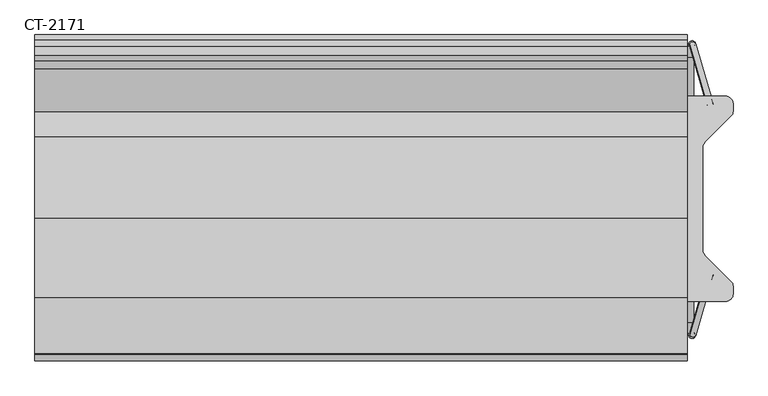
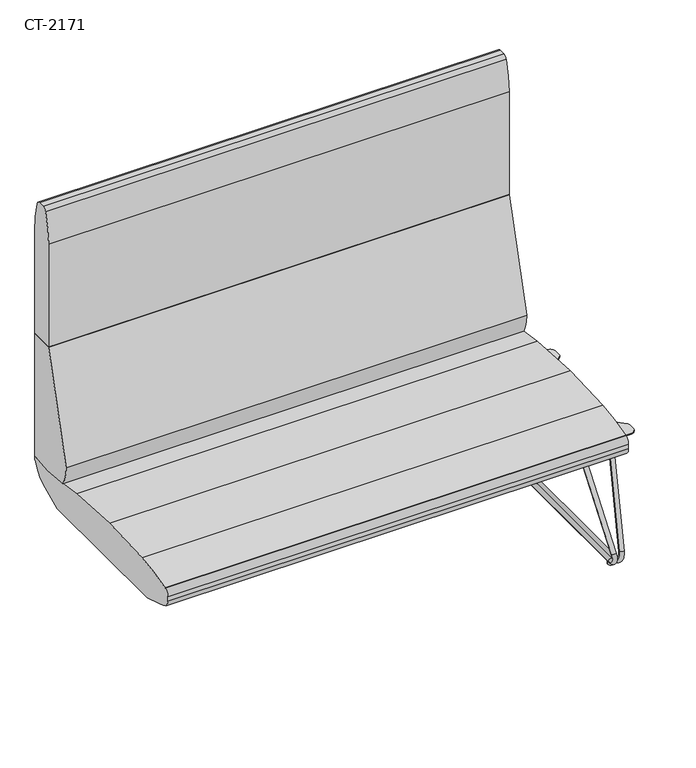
"""IFC4 building model written with IfcOpenShell, lengths in millimetres: furniture geometry, Davis_Furniture-Cantina-High_Back_Straight : CT-2171."""

from ifc_helpers import new_model, si_unit, point, frame, frame_2d, origin, origin_with_axes, place, context, project, spatial, polyline, circle_curve, ellipse_curve, trimmed, segment, composite_curve, outline, extrude, source, transform, mapped, element, save
from ifc_brep_helpers import plane_surface, cylinder_surface, revolved_surface, advanced_brep


def ct_2171_a54bb54a(model_context):
    return source(origin(), model_context, "Body", "SolidModel", [
        extrude(outline(composite_curve([segment(trimmed(circle_curve(frame_2d((709.0306813, 183.2173202)), 14.9820313), [point((709.0306813, 198.1993514))], [point((724.0127126, 183.2173202))], False, "CARTESIAN"), True, "CONTINUOUS"), segment(polyline([(724.0127126, 183.2173202), (724.0127126, 168.7877705)]), True, "CONTINUOUS"), segment(trimmed(circle_curve(frame_2d((710.0063569, 168.7877705)), 14.0063557), [point((724.0127126, 168.7877705))], [point((719.910346, 158.8837814))], False, "CARTESIAN"), True, "CONTINUOUS"), segment(polyline([(719.910346, 158.8837814), (669.3136664, 108.2871019)]), True, "CONTINUOUS"), segment(trimmed(circle_curve(frame_2d((679.6970876, 97.9036807)), 14.684375), [point((669.3136664, 108.2871019))], [point((665.0127126, 97.9036807))], True, "CARTESIAN"), True, "CONTINUOUS"), segment(polyline([(665.0127126, 97.9036807), (665.0127126, -101.5049781)]), True, "CONTINUOUS"), segment(trimmed(circle_curve(frame_2d((679.6970876, -101.5049781)), 14.684375), [point((665.0127126, -101.5049781))], [point((669.3136664, -111.8883992))], True, "CARTESIAN"), True, "CONTINUOUS"), segment(polyline([(669.3136664, -111.8883992), (719.910346, -162.4850787)]), True, "CONTINUOUS"), segment(trimmed(circle_curve(frame_2d((710.0063569, -172.3890678)), 14.0063557), [point((719.910346, -162.4850787))], [point((724.0127126, -172.3890678))], False, "CARTESIAN"), True, "CONTINUOUS"), segment(polyline([(724.0127126, -172.3890678), (724.0127126, -186.8186175)]), True, "CONTINUOUS"), segment(trimmed(circle_curve(frame_2d((709.0306813, -186.8186175)), 14.9820312), [point((724.0127126, -186.8186175))], [point((709.0306813, -201.8006488))], False, "CARTESIAN"), True, "CONTINUOUS"), segment(polyline([(709.0306813, -201.8006488), (560.9693187, -201.8006488)]), True, "CONTINUOUS"), segment(trimmed(circle_curve(frame_2d((560.9693187, -186.8440427)), 14.956606), [point((560.9693187, -201.8006488))], [point((546.0127127, -186.8440427))], False, "CARTESIAN"), True, "CONTINUOUS"), segment(polyline([(546.0127127, -186.8440427), (546.0127127, -172.3822284)]), True, "CONTINUOUS"), segment(trimmed(circle_curve(frame_2d((560.0025564, -172.3822284)), 13.9898438), [point((546.0127127, -172.3822284))], [point((550.110243, -162.489915))], False, "CARTESIAN"), True, "CONTINUOUS"), segment(polyline([(550.110243, -162.489915), (600.7117588, -111.8883992)]), True, "CONTINUOUS"), segment(trimmed(circle_curve(frame_2d((590.3283377, -101.5049781)), 14.684375), [point((600.7117588, -111.8883992))], [point((605.0127127, -101.5049781))], True, "CARTESIAN"), True, "CONTINUOUS"), segment(polyline([(605.0127127, -101.5049781), (605.0127127, 97.918921)]), True, "CONTINUOUS"), segment(trimmed(circle_curve(frame_2d((590.3651309, 97.918921)), 14.6475818), [point((605.0127127, 97.918921))], [point((600.7225353, 108.2763254))], True, "CARTESIAN"), True, "CONTINUOUS"), segment(polyline([(600.7225353, 108.2763254), (550.110243, 158.8886177)]), True, "CONTINUOUS"), segment(trimmed(circle_curve(frame_2d((560.0025564, 168.780931)), 13.9898437), [point((550.110243, 158.8886177))], [point((546.0127127, 168.780931))], False, "CARTESIAN"), True, "CONTINUOUS"), segment(polyline([(546.0127127, 168.780931), (546.0127127, 183.2427454)]), True, "CONTINUOUS"), segment(trimmed(circle_curve(frame_2d((560.9693187, 183.2427454)), 14.956606), [point((546.0127127, 183.2427454))], [point((560.9693187, 198.1993514))], False, "CARTESIAN"), True, "CONTINUOUS"), segment(polyline([(560.9693187, 198.1993514), (709.0306813, 198.1993514)]), True, "CONTINUOUS")], self_intersect=False)), frame((0.0, 0.0, 330.7277844), z_axis=(0.0, 0.0, 1.0), x_axis=(1.0, 0.0, 0.0)), (0.0, 0.0, 1.0), 3.1724353),
        advanced_brep(
        [(639.3476455, 298.4299122, 51.3019909), (651.7863293, 297.001732, 49.1737411), (686.3568189, 178.5251074, 330.7277844), (673.6568189, 180.8488451, 330.7277844), (634.9955294, 274.6441492, 15.8568497), (647.6955294, 274.6441492, 15.8568497), (634.9955294, -242.6856853, 15.8568497), (647.6955294, -242.6856853, 15.8568497), (639.3476455, -266.4714483, 51.3019909), (651.7863293, -265.0432681, 49.1737411), (673.6568189, -148.8903812, 330.7277844), (686.3568189, -146.5666435, 330.7277844)],
        [
            (0, 1, circle_curve(frame((645.5669874, 297.7158221, 50.237866), z_axis=(0.112455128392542, -0.3853952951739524, 0.9158735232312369), x_axis=(-0.9794239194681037, 0.11245512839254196, 0.16757872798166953)), 6.35)),
            (1, 2),
            (2, 3, ellipse_curve(frame((680.0068189, 179.6869762, 330.7277844), z_axis=(0.0, 0.0, -1.0), x_axis=(0.28011057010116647, -0.9599677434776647, 0.0)), 6.9332717, 6.35)),
            (3, 0),
            (1, 0, circle_curve(frame((645.5669874, 297.7158221, 50.237866), z_axis=(0.112455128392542, -0.3853952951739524, 0.9158735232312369), x_axis=(-0.9794239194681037, 0.11245512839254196, 0.16757872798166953)), 6.35)),
            (3, 2, ellipse_curve(frame((680.0068189, 179.6869762, 330.7277844), z_axis=(0.0, 0.0, -1.0), x_axis=(0.28011057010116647, -0.9599677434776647, 0.0)), 6.9332717, 6.35)),
            (0, 4, circle_curve(frame((638.1369549, 274.6441492, 41.4417072), z_axis=(-0.9925461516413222, 0.0, 0.12186934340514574), x_axis=(0.046967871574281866, 0.9227515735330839, 0.38252261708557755)), 25.7769953)),
            (4, 5, circle_curve(frame((641.3455294, 274.6441492, 15.8568497), z_axis=(0.0, 1.0, 0.0), x_axis=(-1.0, 0.0, 0.0)), 6.35)),
            (5, 1, circle_curve(frame((650.6483328, 274.6441492, 39.9055032), z_axis=(0.9925461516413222, 0.0, -0.12186934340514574), x_axis=(0.046967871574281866, 0.9227515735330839, 0.38252261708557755)), 24.2292547)),
            (5, 4, circle_curve(frame((641.3455294, 274.6441492, 15.8568497), z_axis=(0.0, 0.9999999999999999, 0.0), x_axis=(-1.0, 0.0, 0.0)), 6.35)),
            (4, 6),
            (6, 7, circle_curve(frame((641.3455294, -242.6856853, 15.8568497), z_axis=(0.0, 1.0, 0.0), x_axis=(-1.0, 0.0, 0.0)), 6.35)),
            (7, 5),
            (7, 6, circle_curve(frame((641.3455294, -242.6856853, 15.8568497), z_axis=(0.0, 1.0, 0.0), x_axis=(-1.0, 0.0, 0.0)), 6.35)),
            (6, 8, circle_curve(frame((638.1369549, -242.6856853, 41.4417072), z_axis=(-0.9925461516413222, 0.0, 0.12186934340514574), x_axis=(-0.12186934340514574, 0.0, -0.9925461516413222)), 25.7769953)),
            (8, 9, circle_curve(frame((645.5669874, -265.7573582, 50.237866), z_axis=(-0.11245512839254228, -0.3853952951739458, -0.9158735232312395), x_axis=(-0.9794239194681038, -0.1124551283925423, 0.16757872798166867)), 6.35)),
            (9, 7, circle_curve(frame((650.6483328, -242.6856853, 39.9055032), z_axis=(0.9925461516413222, 0.0, -0.12186934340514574), x_axis=(-0.12186934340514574, 0.0, -0.9925461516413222)), 24.2292547)),
            (9, 8, circle_curve(frame((645.5669874, -265.7573582, 50.237866), z_axis=(-0.11245512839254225, -0.3853952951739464, -0.9158735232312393), x_axis=(-0.9794239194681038, -0.11245512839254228, 0.16757872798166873)), 6.35)),
            (8, 10),
            (10, 11, ellipse_curve(frame((680.0068189, -147.7285123, 330.7277844), z_axis=(0.0, 0.0, -1.0), x_axis=(-0.28011057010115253, -0.9599677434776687, 0.0)), 6.9332717, 6.35)),
            (11, 9),
            (11, 10, ellipse_curve(frame((680.0068189, -147.7285123, 330.7277844), z_axis=(0.0, 0.0, -1.0), x_axis=(-0.28011057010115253, -0.9599677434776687, 0.0)), 6.9332717, 6.35)),
        ],
        [
            cylinder_surface(frame((681.1405198, 175.8016664, 339.9610379), z_axis=(0.112455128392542, -0.3853952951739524, 0.9158735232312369), x_axis=(-0.9794239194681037, 0.11245512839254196, 0.16757872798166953)), 6.35),
            revolved_surface(trimmed(ellipse_curve(frame((645.5669874, 297.7158221, 50.237866), z_axis=(0.11245512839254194, -0.38539529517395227, 0.9158735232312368), x_axis=(-0.9794239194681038, 0.112455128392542, 0.1675787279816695)), 6.35, 6.35), [point((639.3476455, 298.4299122, 51.3019909))], [point((651.7863293, 297.001732, 49.1737411))], True, "CARTESIAN"), (697.3582375, 274.6441492, 34.170248), (-0.9925461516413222, 0.0, 0.12186934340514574)),
            revolved_surface(trimmed(ellipse_curve(frame((645.5669874, 297.7158221, 50.237866), z_axis=(0.11245512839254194, -0.38539529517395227, 0.9158735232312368), x_axis=(-0.9794239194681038, 0.112455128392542, 0.1675787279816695)), 6.35, 6.35), [point((651.7863293, 297.001732, 49.1737411))], [point((639.3476455, 298.4299122, 51.3019909))], True, "CARTESIAN"), (697.3582375, 274.6441492, 34.170248), (-0.9925461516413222, 0.0, 0.12186934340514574)),
            cylinder_surface(frame((641.3455294, 274.6441492, 15.8568497), z_axis=(0.0, 1.0, 0.0), x_axis=(-1.0, 0.0, 0.0)), 6.35),
            revolved_surface(trimmed(ellipse_curve(frame((641.3455294, -242.6856853, 15.8568497), z_axis=(0.0, 1.0, 0.0), x_axis=(-1.0, 0.0, 0.0)), 6.35, 6.35), [point((634.9955294, -242.6856853, 15.8568497))], [point((647.6955294, -242.6856853, 15.8568497))], True, "CARTESIAN"), (697.3582375, -242.6856853, 34.170248), (-0.9925461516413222, 0.0, 0.12186934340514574)),
            revolved_surface(trimmed(ellipse_curve(frame((641.3455294, -242.6856853, 15.8568497), z_axis=(0.0, 1.0, 0.0), x_axis=(-1.0, 0.0, 0.0)), 6.35, 6.35), [point((647.6955294, -242.6856853, 15.8568497))], [point((634.9955294, -242.6856853, 15.8568497))], True, "CARTESIAN"), (697.3582375, -242.6856853, 34.170248), (-0.9925461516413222, 0.0, 0.12186934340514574)),
            cylinder_surface(frame((645.5669874, -265.7573582, 50.237866), z_axis=(-0.11245512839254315, -0.38539529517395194, -0.9158735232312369), x_axis=(-0.9794239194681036, -0.11245512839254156, 0.1675787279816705)), 6.35),
            plane_surface(frame((574.675, -168.170768, 330.7277844), z_axis=(0.0, 0.0, 1.0), x_axis=(0.0, 1.0, 0.0))),
        ],
        [
            (0, [[1, 2, 3, 4]]),
            (0, [[5, -4, 6, -2]]),
            (1, [[-1, 7, 8, 9]]),
            (2, [[-5, -9, 10, -7]]),
            (3, [[-8, 11, 12, 13]]),
            (3, [[-10, -13, 14, -11]]),
            (4, [[-12, 15, 16, 17]]),
            (5, [[-14, -17, 18, -15]]),
            (6, [[-16, 19, 20, 21]]),
            (6, [[-18, -21, 22, -19]]),
            (7, [[-3, -6]]),
            (7, [[-20, -22]]),
        ],
    ),
        advanced_brep(
        [(618.2136707, 297.001732, 49.1737411), (630.6523545, 298.4299122, 51.3019909), (596.3431811, 180.8488451, 330.7277844), (583.6431811, 178.5251074, 330.7277844), (622.3044706, 274.6441492, 15.8568497), (635.0044706, 274.6441492, 15.8568497), (622.3044706, -242.6856853, 15.8568497), (635.0044706, -242.6856853, 15.8568497), (618.2136707, -265.0432681, 49.1737411), (630.6523545, -266.4714483, 51.3019909), (583.6431811, -146.5666435, 330.7277844), (596.3431811, -148.8903812, 330.7277844)],
        [
            (0, 1, circle_curve(frame((624.4330126, 297.7158221, 50.237866), z_axis=(-0.11245512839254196, -0.38539529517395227, 0.915873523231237), x_axis=(0.9794239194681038, 0.11245512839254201, 0.1675787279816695)), 6.35)),
            (1, 2),
            (2, 3, ellipse_curve(frame((589.9931811, 179.6869762, 330.7277844), z_axis=(0.0, 0.0, -1.0), x_axis=(-0.28011057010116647, -0.9599677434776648, 0.0)), 6.9332717, 6.35)),
            (3, 0),
            (1, 0, circle_curve(frame((624.4330126, 297.7158221, 50.237866), z_axis=(-0.11245512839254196, -0.38539529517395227, 0.915873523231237), x_axis=(0.9794239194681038, 0.11245512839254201, 0.1675787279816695)), 6.35)),
            (3, 2, ellipse_curve(frame((589.9931811, 179.6869762, 330.7277844), z_axis=(0.0, 0.0, -1.0), x_axis=(-0.28011057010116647, -0.9599677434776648, 0.0)), 6.9332717, 6.35)),
            (0, 4, circle_curve(frame((619.3516672, 274.6441492, 39.9055032), z_axis=(-0.9925461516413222, 0.0, -0.12186934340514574), x_axis=(-0.046967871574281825, 0.9227515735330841, 0.38252261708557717)), 24.2292547)),
            (4, 5, circle_curve(frame((628.6544706, 274.6441492, 15.8568497), z_axis=(0.0, 1.0000000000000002, 0.0), x_axis=(1.0, 0.0, 0.0)), 6.35)),
            (5, 1, circle_curve(frame((631.8630451, 274.6441492, 41.4417072), z_axis=(0.9925461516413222, 0.0, 0.12186934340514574), x_axis=(-0.046967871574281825, 0.9227515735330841, 0.38252261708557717)), 25.7769953)),
            (5, 4, circle_curve(frame((628.6544706, 274.6441492, 15.8568497), z_axis=(0.0, 1.0000000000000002, 0.0), x_axis=(1.0, 0.0, 0.0)), 6.35)),
            (4, 6),
            (6, 7, circle_curve(frame((628.6544706, -242.6856853, 15.8568497), z_axis=(0.0, 1.0, 0.0), x_axis=(1.0, 0.0, 0.0)), 6.35)),
            (7, 5),
            (7, 6, circle_curve(frame((628.6544706, -242.6856853, 15.8568497), z_axis=(0.0, 1.0, 0.0), x_axis=(1.0, 0.0, 0.0)), 6.35)),
            (6, 8, circle_curve(frame((619.3516672, -242.6856853, 39.9055032), z_axis=(-0.9925461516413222, 0.0, -0.12186934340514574), x_axis=(0.12186934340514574, 0.0, -0.9925461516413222)), 24.2292547)),
            (8, 9, circle_curve(frame((624.4330126, -265.7573582, 50.237866), z_axis=(0.11245512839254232, -0.3853952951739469, -0.915873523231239), x_axis=(0.9794239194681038, -0.11245512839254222, 0.1675787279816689)), 6.35)),
            (9, 7, circle_curve(frame((631.8630451, -242.6856853, 41.4417072), z_axis=(0.9925461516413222, 0.0, 0.12186934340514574), x_axis=(0.12186934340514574, 0.0, -0.9925461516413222)), 25.7769953)),
            (9, 8, circle_curve(frame((624.4330126, -265.7573582, 50.237866), z_axis=(0.11245512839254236, -0.3853952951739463, -0.9158735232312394), x_axis=(0.9794239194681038, -0.11245512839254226, 0.1675787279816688)), 6.35)),
            (8, 10),
            (10, 11, ellipse_curve(frame((589.9931811, -147.7285123, 330.7277844), z_axis=(0.0, 0.0, -1.0), x_axis=(0.2801105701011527, -0.9599677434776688, 0.0)), 6.9332717, 6.35)),
            (11, 9),
            (11, 10, ellipse_curve(frame((589.9931811, -147.7285123, 330.7277844), z_axis=(0.0, 0.0, -1.0), x_axis=(0.2801105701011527, -0.9599677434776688, 0.0)), 6.9332717, 6.35)),
        ],
        [
            cylinder_surface(frame((588.8594802, 175.8016664, 339.9610379), z_axis=(-0.11245512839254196, -0.38539529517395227, 0.915873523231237), x_axis=(0.9794239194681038, 0.11245512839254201, 0.1675787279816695)), 6.35),
            revolved_surface(trimmed(ellipse_curve(frame((624.4330126, 297.7158221, 50.237866), z_axis=(-0.11245512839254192, -0.385395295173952, 0.9158735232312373), x_axis=(0.9794239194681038, 0.11245512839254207, 0.1675787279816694)), 6.35, 6.35), [point((618.2136707, 297.001732, 49.1737411))], [point((630.6523545, 298.4299122, 51.3019909))], True, "CARTESIAN"), (572.6417625, 274.6441492, 34.170248), (-0.9925461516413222, 0.0, -0.12186934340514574)),
            revolved_surface(trimmed(ellipse_curve(frame((624.4330126, 297.7158221, 50.237866), z_axis=(-0.11245512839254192, -0.385395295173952, 0.9158735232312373), x_axis=(0.9794239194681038, 0.11245512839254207, 0.1675787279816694)), 6.35, 6.35), [point((630.6523545, 298.4299122, 51.3019909))], [point((618.2136707, 297.001732, 49.1737411))], True, "CARTESIAN"), (572.6417625, 274.6441492, 34.170248), (-0.9925461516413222, 0.0, -0.12186934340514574)),
            cylinder_surface(frame((628.6544706, 274.6441492, 15.8568497), z_axis=(0.0, 1.0, 0.0), x_axis=(1.0, 0.0, 0.0)), 6.35),
            revolved_surface(trimmed(ellipse_curve(frame((628.6544706, -242.6856853, 15.8568497), z_axis=(0.0, 1.0, 0.0), x_axis=(1.0, 0.0, 0.0)), 6.35, 6.35), [point((622.3044706, -242.6856853, 15.8568497))], [point((635.0044706, -242.6856853, 15.8568497))], True, "CARTESIAN"), (572.6417625, -242.6856853, 34.170248), (-0.9925461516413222, 0.0, -0.12186934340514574)),
            revolved_surface(trimmed(ellipse_curve(frame((628.6544706, -242.6856853, 15.8568497), z_axis=(0.0, 1.0, 0.0), x_axis=(1.0, 0.0, 0.0)), 6.35, 6.35), [point((635.0044706, -242.6856853, 15.8568497))], [point((622.3044706, -242.6856853, 15.8568497))], True, "CARTESIAN"), (572.6417625, -242.6856853, 34.170248), (-0.9925461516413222, 0.0, -0.12186934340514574)),
            cylinder_surface(frame((624.4330126, -265.7573582, 50.237866), z_axis=(0.11245512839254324, -0.38539529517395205, -0.9158735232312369), x_axis=(0.9794239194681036, -0.11245512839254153, 0.16757872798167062)), 6.35),
            plane_surface(frame((574.675, -168.170768, 330.7277844), z_axis=(0.0, 0.0, 1.0), x_axis=(0.0, 1.0, 0.0))),
        ],
        [
            (0, [[1, 2, 3, 4]]),
            (0, [[5, -4, 6, -2]]),
            (1, [[-1, 7, 8, 9]]),
            (2, [[-5, -9, 10, -7]]),
            (3, [[-8, 11, 12, 13]]),
            (3, [[-10, -13, 14, -11]]),
            (4, [[-12, 15, 16, 17]]),
            (5, [[-14, -17, 18, -15]]),
            (6, [[-16, 19, 20, 21]]),
            (6, [[-18, -21, 22, -19]]),
            (7, [[-3, -6]]),
            (7, [[-20, -22]]),
        ],
    ),
        extrude(outline(composite_curve([segment(trimmed(circle_curve(frame_2d((635.0, -233.1061316)), 8.5328125), [point((626.4671875, -233.1061316))], [point((643.5328125, -233.1061316))], False, "CARTESIAN"), True, "CONTINUOUS"), segment(trimmed(circle_curve(frame_2d((635.0, -233.1061316)), 8.5328125), [point((643.5328125, -233.1061316))], [point((626.4671875, -233.1061316))], False, "CARTESIAN"), True, "CONTINUOUS")], self_intersect=False)), origin_with_axes(), (0.0, 0.0, 1.0), 9.5168817),
        extrude(outline(composite_curve([segment(trimmed(circle_curve(frame_2d((635.0, 265.0645955)), 8.5328125), [point((626.4671875, 265.0645955))], [point((643.5328125, 265.0645955))], False, "CARTESIAN"), True, "CONTINUOUS"), segment(trimmed(circle_curve(frame_2d((635.0, 265.0645955)), 8.5328125), [point((643.5328125, 265.0645955))], [point((626.4671875, 265.0645955))], False, "CARTESIAN"), True, "CONTINUOUS")], self_intersect=False)), origin_with_axes(), (0.0, 0.0, 1.0), 9.5168817),
        extrude(outline(composite_curve([segment(polyline([(251.8776889, 780.2222424), (317.5, 780.2222424), (317.5, 422.8417878)]), True, "CONTINUOUS"), segment(trimmed(circle_curve(frame_2d((252.6571889, 734.4725425)), 318.3053839), [point((317.5, 422.8417878))], [point((195.0170524, 421.4295229))], False, "CARTESIAN"), True, "CONTINUOUS"), segment(trimmed(circle_curve(frame_2d((-42.4075795, -868.0213401)), 1311.12699), [point((195.0170524, 421.4295229))], [point((183.4762494, 423.5012032))], True, "CARTESIAN"), True, "CONTINUOUS"), segment(trimmed(circle_curve(frame_2d((262.7994143, 474.997645)), 94.5729772), [point((183.4762494, 423.5012032))], [point((168.334097, 479.5089455))], False, "CARTESIAN"), True, "CONTINUOUS"), segment(polyline([(168.334097, 479.5089455), (251.8776889, 780.2222424)]), True, "CONTINUOUS")], self_intersect=False)), frame((-635.0, 0.0, 0.0), z_axis=(1.0, 0.0, 0.0), x_axis=(0.0, 1.0, 0.0)), (0.0, 0.0, 1.0), 1270.0),
        extrude(outline(composite_curve([segment(trimmed(circle_curve(frame_2d((294.3906222, 1161.9216653)), 12.7), [point((294.3906222, 1174.6216653))], [point((306.6930666, 1165.0744199))], False, "CARTESIAN"), True, "CONTINUOUS"), segment(trimmed(circle_curve(frame_2d((-27.7298481, 1079.3716653)), 345.2298481), [point((306.6930666, 1165.0744199))], [point((317.5, 1079.3716653))], False, "CARTESIAN"), True, "CONTINUOUS"), segment(polyline([(317.5, 1079.3716653), (317.5, 780.2222424), (251.8776889, 780.2222424), (251.8776889, 1079.3716653)]), True, "CONTINUOUS"), segment(trimmed(circle_curve(frame_2d((520.06423, 1079.3716653)), 268.1865412), [point((251.8776889, 1079.3716653))], [point((266.2627436, 1166.0251495))], False, "CARTESIAN"), True, "CONTINUOUS"), segment(trimmed(circle_curve(frame_2d((278.2815379, 1161.9216653)), 12.7), [point((266.2627436, 1166.0251495))], [point((278.2815379, 1174.6216653))], False, "CARTESIAN"), True, "CONTINUOUS"), segment(polyline([(278.2815379, 1174.6216653), (294.3906222, 1174.6216653)]), True, "CONTINUOUS")], self_intersect=False)), frame((-635.0, 0.0, 0.0), z_axis=(1.0, 0.0, 0.0), x_axis=(0.0, 1.0, 0.0)), (0.0, 0.0, 1.0), 1270.0),
        extrude(outline(composite_curve([segment(trimmed(circle_curve(frame_2d((-298.45, 397.7963214)), 19.05), [point((-317.5, 397.7963214))], [point((-305.7075305, 415.40969))], False, "CARTESIAN"), True, "CONTINUOUS"), segment(trimmed(circle_curve(frame_2d((-158.75, 58.7570862)), 385.7429138), [point((-305.7075305, 415.40969))], [point((-303.9688287, 416.1211685))], False, "CARTESIAN"), True, "CONTINUOUS"), segment(trimmed(circle_curve(frame_2d((-152.4794636, -82.1541678)), 520.7949103), [point((-303.9688287, 416.1211685))], [point((-195.0051963, 436.9016101))], False, "CARTESIAN"), True, "CONTINUOUS"), segment(trimmed(circle_curve(frame_2d((-43.2851266, -1414.9460545)), 1858.0524085), [point((-195.0051963, 436.9016101))], [point((-40.3038638, 443.1039622))], False, "CARTESIAN"), True, "CONTINUOUS"), segment(trimmed(circle_curve(frame_2d((-42.4075795, -868.0213401)), 1311.12699), [point((-40.3038638, 443.1039622))], [point((118.3875039, 433.208434))], False, "CARTESIAN"), True, "CONTINUOUS"), segment(trimmed(circle_curve(frame_2d((-42.4075795, -868.0213401)), 1311.12699), [point((118.3875039, 433.208434))], [point((195.0170524, 421.4295229))], False, "CARTESIAN"), True, "CONTINUOUS"), segment(trimmed(circle_curve(frame_2d((252.6571889, 734.4725425)), 318.3053839), [point((195.0170524, 421.4295229))], [point((317.5, 422.8417878))], True, "CARTESIAN"), True, "CONTINUOUS"), segment(polyline([(317.5, 422.8417878), (317.5, 413.6705704)]), True, "CONTINUOUS"), segment(trimmed(circle_curve(frame_2d((311.15, 413.6705704)), 6.35), [point((317.5, 413.6705704))], [point((316.902532, 410.9815417))], False, "CARTESIAN"), True, "CONTINUOUS"), segment(trimmed(circle_curve(frame_2d((213.8512803, 459.1529865)), 113.7543343), [point((316.902532, 410.9815417))], [point((259.2429572, 354.8474534))], False, "CARTESIAN"), True, "CONTINUOUS"), segment(polyline([(259.2429572, 354.8474534), (211.060536, 333.8794297), (-217.9078165, 333.8794297), (-278.4661162, 352.9828937)]), True, "CONTINUOUS"), segment(trimmed(circle_curve(frame_2d((-183.2470513, 654.8289187)), 316.5085989), [point((-278.4661162, 352.9828937))], [point((-294.9895137, 358.7017243))], False, "CARTESIAN"), True, "CONTINUOUS"), segment(trimmed(circle_curve(frame_2d((-272.8348429, 417.4135188)), 62.7527231), [point((-294.9895137, 358.7017243))], [point((-306.6952536, 364.5800367))], False, "CARTESIAN"), True, "CONTINUOUS"), segment(trimmed(circle_curve(frame_2d((-294.0326067, 384.3379698)), 23.4673933), [point((-306.6952536, 364.5800367))], [point((-317.5, 384.3379698))], False, "CARTESIAN"), True, "CONTINUOUS"), segment(polyline([(-317.5, 384.3379698), (-317.5, 397.7963214)]), True, "CONTINUOUS")], self_intersect=False)), frame((-635.0, 0.0, 0.0), z_axis=(1.0, 0.0, 0.0), x_axis=(0.0, 1.0, 0.0)), (0.0, 0.0, 1.0), 1270.0),
    ])


if __name__ == "__main__":
    model = new_model("IFC4")
    model_context = context("Model", 3, world=origin())
    ifc_project = project(units=[si_unit("LENGTHUNIT", "METRE", prefix="MILLI")], contexts=[model_context])
    site = spatial("IfcSite", under=ifc_project)
    building = spatial("IfcBuilding", under=site)
    placement = place(None, origin())
    ct_2171_shape = ct_2171_a54bb54a(model_context)
    element("IfcFurniture", 1, ObjectType="Davis_Furniture-Cantina-High_Back_Straight : CT-2171", at=placement, inside=building, context=model_context, shape_type="MappedRepresentation", body=[
        mapped(ct_2171_shape, transform((0.0, 0.0, 0.0), x_axis=(1.0, 0.0, 0.0), y_axis=(0.0, 1.0, 0.0), z_axis=(0.0, 0.0, 1.0))),
    ])
    save(model, "model.ifc")
